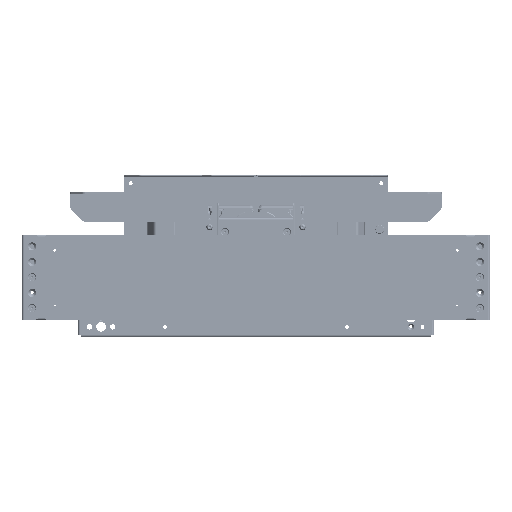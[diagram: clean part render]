
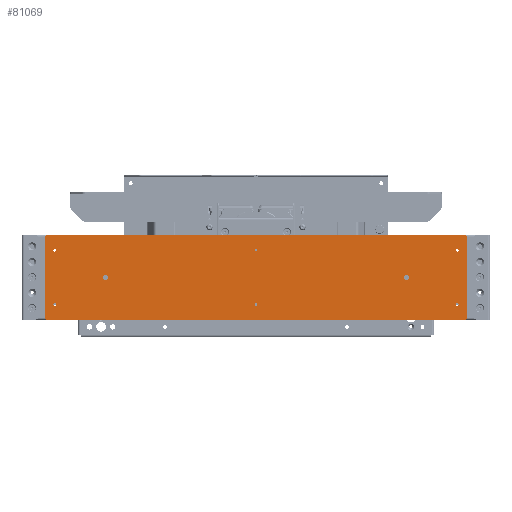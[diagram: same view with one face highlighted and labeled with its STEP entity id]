
A CAD part, top view. The second image highlights one B-rep face of the part: STEP entity #81069.
In plain terms, the highlighted planar face has unit normal (0, 0, 1) as drawn and (0, -1, 0) by its records, which use the part's own axes.
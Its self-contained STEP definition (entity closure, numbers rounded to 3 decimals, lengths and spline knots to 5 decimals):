
#10821=LINE('',#153397,#17352);
#10822=LINE('',#153402,#17353);
#10823=LINE('',#153406,#17354);
#10824=LINE('',#153410,#17355);
#17352=VECTOR('',#113872,1.);
#17353=VECTOR('',#113875,1.);
#17354=VECTOR('',#113878,1.);
#17355=VECTOR('',#113881,1.);
#38172=ORIENTED_EDGE('',*,*,#50251,.F.);
#38173=ORIENTED_EDGE('',*,*,#50252,.T.);
#38174=ORIENTED_EDGE('',*,*,#50253,.F.);
#38175=ORIENTED_EDGE('',*,*,#50254,.T.);
#38176=ORIENTED_EDGE('',*,*,#50255,.T.);
#38177=ORIENTED_EDGE('',*,*,#50256,.T.);
#38178=ORIENTED_EDGE('',*,*,#50257,.T.);
#38179=ORIENTED_EDGE('',*,*,#50258,.T.);
#38180=ORIENTED_EDGE('',*,*,#50250,.F.);
#38181=ORIENTED_EDGE('',*,*,#50248,.F.);
#38182=ORIENTED_EDGE('',*,*,#50246,.F.);
#38183=ORIENTED_EDGE('',*,*,#50243,.F.);
#38184=ORIENTED_EDGE('',*,*,#50240,.F.);
#38185=ORIENTED_EDGE('',*,*,#50237,.F.);
#38186=ORIENTED_EDGE('',*,*,#50234,.F.);
#38187=ORIENTED_EDGE('',*,*,#50231,.F.);
#50231=EDGE_CURVE('',#58017,#58017,#61854,.T.);
#50234=EDGE_CURVE('',#58020,#58020,#61857,.T.);
#50237=EDGE_CURVE('',#58023,#58023,#61860,.T.);
#50240=EDGE_CURVE('',#58026,#58026,#61863,.T.);
#50243=EDGE_CURVE('',#58029,#58029,#61866,.T.);
#50246=EDGE_CURVE('',#58032,#58032,#61869,.T.);
#50248=EDGE_CURVE('',#58034,#58034,#61871,.T.);
#50250=EDGE_CURVE('',#58036,#58036,#61873,.T.);
#50251=EDGE_CURVE('',#58037,#58038,#10821,.T.);
#50252=EDGE_CURVE('',#58037,#58039,#61874,.T.);
#50253=EDGE_CURVE('',#58040,#58039,#10822,.T.);
#50254=EDGE_CURVE('',#58040,#58041,#61875,.T.);
#50255=EDGE_CURVE('',#58041,#58042,#10823,.T.);
#50256=EDGE_CURVE('',#58042,#58043,#61876,.T.);
#50257=EDGE_CURVE('',#58043,#58044,#10824,.T.);
#50258=EDGE_CURVE('',#58044,#58038,#61877,.T.);
#58017=VERTEX_POINT('',#153345);
#58020=VERTEX_POINT('',#153353);
#58023=VERTEX_POINT('',#153361);
#58026=VERTEX_POINT('',#153369);
#58029=VERTEX_POINT('',#153377);
#58032=VERTEX_POINT('',#153385);
#58034=VERTEX_POINT('',#153390);
#58036=VERTEX_POINT('',#153395);
#58037=VERTEX_POINT('',#153398);
#58038=VERTEX_POINT('',#153399);
#58039=VERTEX_POINT('',#153401);
#58040=VERTEX_POINT('',#153403);
#58041=VERTEX_POINT('',#153405);
#58042=VERTEX_POINT('',#153407);
#58043=VERTEX_POINT('',#153409);
#58044=VERTEX_POINT('',#153411);
#61854=CIRCLE('',#92347,0.00225);
#61857=CIRCLE('',#92352,0.00225);
#61860=CIRCLE('',#92357,0.00225);
#61863=CIRCLE('',#92362,0.00225);
#61866=CIRCLE('',#92367,0.00225);
#61869=CIRCLE('',#92372,0.00225);
#61871=CIRCLE('',#92375,0.00396);
#61873=CIRCLE('',#92378,0.00396);
#61874=CIRCLE('',#92380,0.00318);
#61875=CIRCLE('',#92381,0.00318);
#61876=CIRCLE('',#92382,0.00318);
#61877=CIRCLE('',#92383,0.00318);
#67727=EDGE_LOOP('',(#38172,#38173,#38174,#38175,#38176,#38177,#38178,#38179));
#67728=EDGE_LOOP('',(#38180));
#67729=EDGE_LOOP('',(#38181));
#67730=EDGE_LOOP('',(#38182));
#67731=EDGE_LOOP('',(#38183));
#67732=EDGE_LOOP('',(#38184));
#67733=EDGE_LOOP('',(#38185));
#67734=EDGE_LOOP('',(#38186));
#67735=EDGE_LOOP('',(#38187));
#73940=FACE_BOUND('',#67727,.T.);
#73941=FACE_BOUND('',#67728,.T.);
#73942=FACE_BOUND('',#67729,.T.);
#73943=FACE_BOUND('',#67730,.T.);
#73944=FACE_BOUND('',#67731,.T.);
#73945=FACE_BOUND('',#67732,.T.);
#73946=FACE_BOUND('',#67733,.T.);
#73947=FACE_BOUND('',#67734,.T.);
#73948=FACE_BOUND('',#67735,.T.);
#76664=PLANE('',#92379);
#81069=ADVANCED_FACE('',(#73940,#73941,#73942,#73943,#73944,#73945,#73946,
#73947,#73948),#76664,.T.);
#92347=AXIS2_PLACEMENT_3D('',#153344,#113806,#113807);
#92352=AXIS2_PLACEMENT_3D('',#153352,#113816,#113817);
#92357=AXIS2_PLACEMENT_3D('',#153360,#113826,#113827);
#92362=AXIS2_PLACEMENT_3D('',#153368,#113836,#113837);
#92367=AXIS2_PLACEMENT_3D('',#153376,#113846,#113847);
#92372=AXIS2_PLACEMENT_3D('',#153384,#113856,#113857);
#92375=AXIS2_PLACEMENT_3D('',#153389,#113862,#113863);
#92378=AXIS2_PLACEMENT_3D('',#153394,#113868,#113869);
#92379=AXIS2_PLACEMENT_3D('',#153396,#113870,#113871);
#92380=AXIS2_PLACEMENT_3D('',#153400,#113873,#113874);
#92381=AXIS2_PLACEMENT_3D('',#153404,#113876,#113877);
#92382=AXIS2_PLACEMENT_3D('',#153408,#113879,#113880);
#92383=AXIS2_PLACEMENT_3D('',#153412,#113882,#113883);
#113806=DIRECTION('',(0.,-1.,0.));
#113807=DIRECTION('',(1.,0.,0.));
#113816=DIRECTION('',(0.,-1.,0.));
#113817=DIRECTION('',(1.,0.,0.));
#113826=DIRECTION('',(0.,-1.,0.));
#113827=DIRECTION('',(1.,0.,0.));
#113836=DIRECTION('',(0.,-1.,0.));
#113837=DIRECTION('',(1.,0.,0.));
#113846=DIRECTION('',(0.,-1.,0.));
#113847=DIRECTION('',(1.,0.,0.));
#113856=DIRECTION('',(0.,-1.,0.));
#113857=DIRECTION('',(1.,0.,0.));
#113862=DIRECTION('',(0.,-1.,0.));
#113863=DIRECTION('',(1.,0.,0.));
#113868=DIRECTION('',(0.,-1.,0.));
#113869=DIRECTION('',(1.,0.,0.));
#113870=DIRECTION('',(0.,-1.,0.));
#113871=DIRECTION('',(1.,0.,0.));
#113872=DIRECTION('',(0.,0.,1.));
#113873=DIRECTION('',(0.,-1.,0.));
#113874=DIRECTION('',(1.,0.,0.));
#113875=DIRECTION('',(-1.,0.,0.));
#113876=DIRECTION('',(0.,-1.,0.));
#113877=DIRECTION('',(1.,0.,0.));
#113878=DIRECTION('',(0.,0.,1.));
#113879=DIRECTION('',(0.,-1.,0.));
#113880=DIRECTION('',(1.,0.,0.));
#113881=DIRECTION('',(-1.,0.,0.));
#113882=DIRECTION('',(0.,-1.,0.));
#113883=DIRECTION('',(1.,0.,0.));
#153344=CARTESIAN_POINT('',(0.62548,-0.76109,-0.05766));
#153345=CARTESIAN_POINT('',(0.62772,-0.76109,-0.05766));
#153352=CARTESIAN_POINT('',(0.29528,-0.76109,-0.05766));
#153353=CARTESIAN_POINT('',(0.29752,-0.76109,-0.05766));
#153360=CARTESIAN_POINT('',(0.29528,-0.76109,-0.14656));
#153361=CARTESIAN_POINT('',(0.29752,-0.76109,-0.14656));
#153368=CARTESIAN_POINT('',(-0.03493,-0.76109,-0.05766));
#153369=CARTESIAN_POINT('',(-0.03268,-0.76109,-0.05766));
#153376=CARTESIAN_POINT('',(0.62548,-0.76109,-0.14656));
#153377=CARTESIAN_POINT('',(0.62772,-0.76109,-0.14656));
#153384=CARTESIAN_POINT('',(-0.03493,-0.76109,-0.14656));
#153385=CARTESIAN_POINT('',(-0.03268,-0.76109,-0.14656));
#153389=CARTESIAN_POINT('',(0.54242,-0.76109,-0.10211));
#153390=CARTESIAN_POINT('',(0.54638,-0.76109,-0.10211));
#153394=CARTESIAN_POINT('',(0.04813,-0.76109,-0.10211));
#153395=CARTESIAN_POINT('',(0.0521,-0.76109,-0.10211));
#153396=CARTESIAN_POINT('',(0.29528,-0.76109,-0.10211));
#153397=CARTESIAN_POINT('',(-0.0508,-0.76109,-0.10211));
#153398=CARTESIAN_POINT('',(-0.0508,-0.76109,-0.16878));
#153399=CARTESIAN_POINT('',(-0.0508,-0.76109,-0.03543));
#153400=CARTESIAN_POINT('',(-0.04763,-0.76109,-0.16878));
#153401=CARTESIAN_POINT('',(-0.04763,-0.76109,-0.17196));
#153402=CARTESIAN_POINT('',(0.29528,-0.76109,-0.17196));
#153403=CARTESIAN_POINT('',(0.63818,-0.76109,-0.17196));
#153404=CARTESIAN_POINT('',(0.63818,-0.76109,-0.16878));
#153405=CARTESIAN_POINT('',(0.64135,-0.76109,-0.16878));
#153406=CARTESIAN_POINT('',(0.64135,-0.76109,-0.10211));
#153407=CARTESIAN_POINT('',(0.64135,-0.76109,-0.03543));
#153408=CARTESIAN_POINT('',(0.63818,-0.76109,-0.03543));
#153409=CARTESIAN_POINT('',(0.63818,-0.76109,-0.03226));
#153410=CARTESIAN_POINT('',(0.29528,-0.76109,-0.03226));
#153411=CARTESIAN_POINT('',(-0.04763,-0.76109,-0.03226));
#153412=CARTESIAN_POINT('',(-0.04763,-0.76109,-0.03543));
